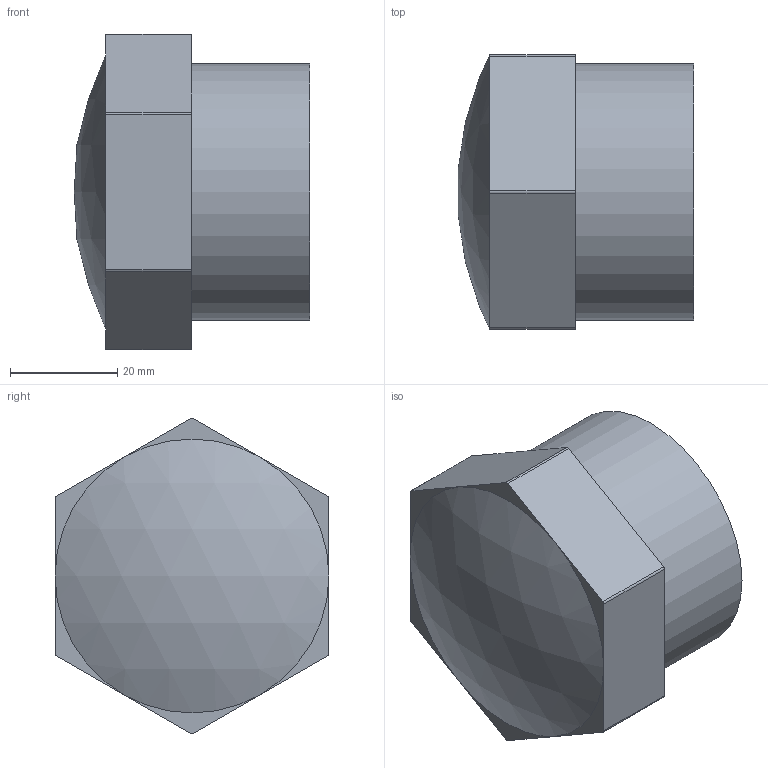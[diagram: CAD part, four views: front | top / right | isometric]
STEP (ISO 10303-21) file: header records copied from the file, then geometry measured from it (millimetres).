
FILE_DESCRIPTION(/* description */ ('PLASSON THREADED PLUG PVC 1.1/2"'),/* implementation_level */ '2;1');
FILE_NAME(/* name */ 'C:\Dropbox\KIMPROJECTS-Inventor\99-16-3568-Processing\PVC Catalog 2017\051701\051701015.ipt.stp',/* time_stamp */ '2017-12-07T16:01:35+02:00',/* author */ ('KIM'),/* organization */ (''),/* preprocessor_version */ 'ST-DEVELOPER v15.6',/* originating_system */ 'Autodesk Inventor 2015',/* authorisation */ '');
FILE_SCHEMA (('AUTOMOTIVE_DESIGN { 1 0 10303 214 3 1 1 }'));
Length unit declared in the file: millimetre
Products named in the file (1): 051701015
Bounding box: 43.83 x 51 x 58.73 mm (x, y, z)
Volume: 44070.6 mm3; surface area: 14493.4 mm2
Topology: 1 solids, 1 shells, 24 faces, 54 edges, 34 vertices
Faces by surface type: plane 14, cylinder 8, sphere 2
Full cylindrical faces by diameter (mm): 38.242 x1, 47.803 x1
Entity records: 686 total; most frequent: DIRECTION 124, CARTESIAN_POINT 111, ORIENTED_EDGE 104, EDGE_CURVE 52, AXIS2_PLACEMENT_3D 47, VERTEX_POINT 34, LINE 30, VECTOR 30
